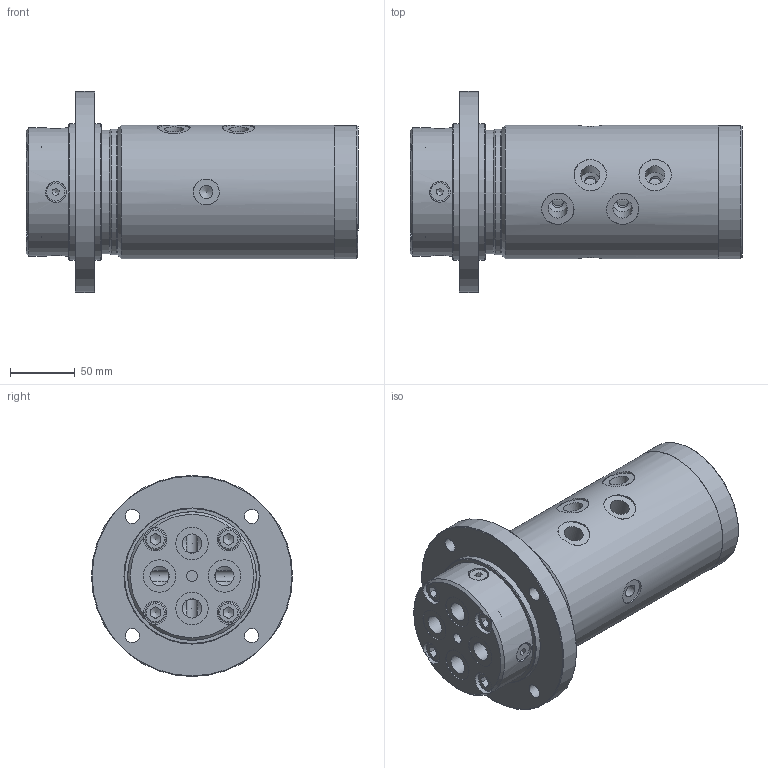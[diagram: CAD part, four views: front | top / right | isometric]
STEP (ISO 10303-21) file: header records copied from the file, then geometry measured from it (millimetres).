
FILE_DESCRIPTION(/* description */ (''),/* implementation_level */ '2;1');
FILE_NAME(/* name */ 'I:\Wenzel\Zeichnungen\Wenzel-1\1301000.stp',/* time_stamp */ '2021-05-01T10:36:23+02:00',/* author */ ('Frank'),/* organization */ (''),/* preprocessor_version */ 'ST-DEVELOPER v18',/* originating_system */ 'Autodesk Inventor 2020',/* authorisation */ '');
FILE_SCHEMA (('AUTOMOTIVE_DESIGN { 1 0 10303 214 3 1 1 }'));
Length unit declared in the file: millimetre
Products named in the file (16): 1301000; 1298030; DIN 625 SKF - SKF 6010; DIN 625 SKF - SKF 6007; 1298020; 1298040; 1298100; 1298050; DIN 471 - 35 x 1,5; 1298070; DIN 908 - M10 x 1; DIN 912 - M10 x 45; DIN 912 - M8 x 20; trelleborg_tg3200500-t40e_424b6k8num9he3ofegrm0xrut; trelleborg_tg3200500-t40e_424b6k8num9he3ofegrm0xrut_01; trelleborg_tg3200500-t40e_424b6k8num9he3ofegrm0xrut_02
Assembly tree (31 placements, depth 3):
  1301000
    1298030
    DIN 625 SKF - SKF 6010
    DIN 625 SKF - SKF 6007
    1298020
    1298040
    1298100  x4
    1298050
    DIN 471 - 35 x 1,5
    1298070
    DIN 908 - M10 x 1  x4
    DIN 912 - M10 x 45  x4
    DIN 912 - M8 x 20  x4
    trelleborg_tg3200500-t40e_424b6k8num9he3ofegrm0xrut  x5
      trelleborg_tg3200500-t40e_424b6k8num9he3ofegrm0xrut_01
      trelleborg_tg3200500-t40e_424b6k8num9he3ofegrm0xrut_02
Bounding box: 256 x 155 x 155 mm (x, y, z)
Volume: 2052127.7 mm3; surface area: 366488.6 mm2
Topology: 34 solids, 34 shells, 735 faces, 2254 edges, 1617 vertices
Faces by surface type: cylinder 242, plane 234, torus 123, cone 116, sphere 20
Full cylindrical faces by diameter (mm): 2.5 x2, 4 x1, 6.647 x8, 8 x4, 8.376 x5, 8.917 x4, 9 x20, 9.6 x4, 10 x8, 10.106 x2, 11 x8, 13 x4, 14 x4, 14.95 x8, 15 x4, 16 x8, 17 x8, 18 x4, 20 x2, 25 x6, 33 x1, 35 x4, 40 x1, 43 x1, 43.64 x2, 44 x1, 49 x1, 50 x22, 50.1 x6, 51.509 x10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
Entity records: 21405 total; most frequent: CARTESIAN_POINT 6676, DIRECTION 3116, ORIENTED_EDGE 2918, EDGE_CURVE 1459, AXIS2_PLACEMENT_3D 1413, VERTEX_POINT 1082, CIRCLE 867, EDGE_LOOP 687
